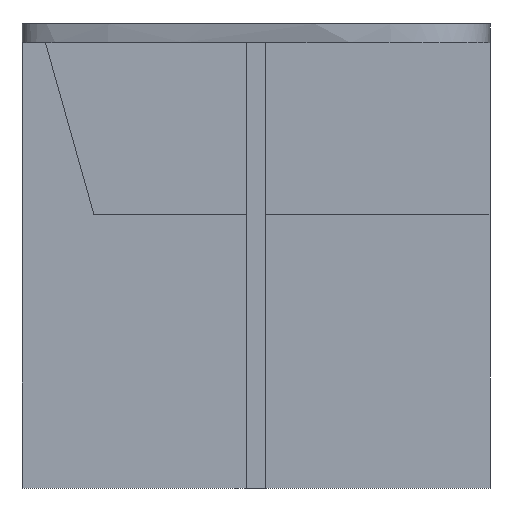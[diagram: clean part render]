
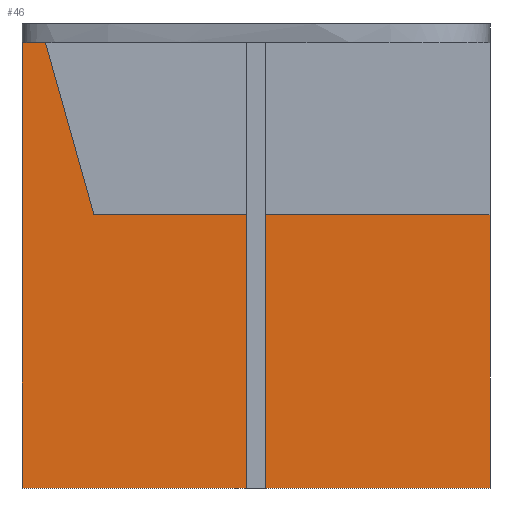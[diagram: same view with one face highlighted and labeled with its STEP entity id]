
A CAD part, left-side view. The second image highlights one B-rep face of the part: STEP entity #46.
In plain terms, the highlighted free-form (B-spline) face has degree [1, 1] with [2, 2] control points.
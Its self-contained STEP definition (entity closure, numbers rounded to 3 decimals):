
#46=ADVANCED_FACE('',(#91),#1428,.T.);
#91=FACE_OUTER_BOUND('',#136,.T.);
#136=EDGE_LOOP('',(#252,#253,#254,#255,#256,#257));
#252=ORIENTED_EDGE('',*,*,#950,.F.);
#253=ORIENTED_EDGE('',*,*,#948,.F.);
#254=ORIENTED_EDGE('',*,*,#952,.F.);
#255=ORIENTED_EDGE('',*,*,#961,.T.);
#256=ORIENTED_EDGE('',*,*,#955,.F.);
#257=ORIENTED_EDGE('',*,*,#959,.F.);
#449=PCURVE('',#1423,#663);
#452=PCURVE('',#1424,#666);
#454=PCURVE('',#1425,#668);
#458=PCURVE('',#1426,#672);
#462=PCURVE('',#1427,#676);
#466=PCURVE('',#1428,#680);
#467=PCURVE('',#1428,#681);
#468=PCURVE('',#1428,#682);
#469=PCURVE('',#1428,#683);
#470=PCURVE('',#1428,#684);
#471=PCURVE('',#1428,#685);
#478=PCURVE('',#1430,#692);
#663=DEFINITIONAL_REPRESENTATION('',(#1131),#2738);
#666=DEFINITIONAL_REPRESENTATION('',(#1136),#2738);
#668=DEFINITIONAL_REPRESENTATION('',(#1140),#2738);
#672=DEFINITIONAL_REPRESENTATION('',(#1147),#2738);
#676=DEFINITIONAL_REPRESENTATION('',(#1155),#2738);
#680=DEFINITIONAL_REPRESENTATION('',(#1160),#2738);
#681=DEFINITIONAL_REPRESENTATION('',(#1161),#2738);
#682=DEFINITIONAL_REPRESENTATION('',(#1162),#2738);
#683=DEFINITIONAL_REPRESENTATION('',(#1164),#2738);
#684=DEFINITIONAL_REPRESENTATION('',(#1165),#2738);
#685=DEFINITIONAL_REPRESENTATION('',(#1166),#2738);
#692=DEFINITIONAL_REPRESENTATION('',(#1174),#2738);
#841=SURFACE_CURVE('',#1130,(#449,#467),.PCURVE_S1.);
#843=SURFACE_CURVE('',#1135,(#452,#466),.PCURVE_S1.);
#845=SURFACE_CURVE('',#1139,(#454,#468),.PCURVE_S1.);
#848=SURFACE_CURVE('',#1146,(#458,#470),.PCURVE_S1.);
#852=SURFACE_CURVE('',#1154,(#462,#471),.PCURVE_S1.);
#854=SURFACE_CURVE('',#1163,(#469,#478),.PCURVE_S1.);
#948=EDGE_CURVE('',#1360,#1359,#841,.T.);
#950=EDGE_CURVE('',#1359,#1367,#843,.T.);
#952=EDGE_CURVE('',#1361,#1360,#845,.T.);
#955=EDGE_CURVE('',#1365,#1366,#848,.T.);
#959=EDGE_CURVE('',#1367,#1365,#852,.T.);
#961=EDGE_CURVE('',#1361,#1366,#854,.T.);
#1130=B_SPLINE_CURVE_WITH_KNOTS('',1,(#1905,#1906),.UNSPECIFIED.,.F.,.F.,
(2,2),(-365.,0.),.UNSPECIFIED.);
#1131=B_SPLINE_CURVE_WITH_KNOTS('',1,(#1907,#1908),.UNSPECIFIED.,.F.,.F.,
(2,2),(-365.,0.),.UNSPECIFIED.);
#1135=B_SPLINE_CURVE_WITH_KNOTS('',1,(#1915,#1916),.UNSPECIFIED.,.F.,.F.,
(2,2),(-622.55,-591.458),.UNSPECIFIED.);
#1136=B_SPLINE_CURVE_WITH_KNOTS('',1,(#1917,#1918),.UNSPECIFIED.,.F.,.F.,
(2,2),(-622.55,-591.458),.UNSPECIFIED.);
#1139=B_SPLINE_CURVE_WITH_KNOTS('',1,(#1923,#1924),.UNSPECIFIED.,.F.,.F.,
(2,2),(0.,622.55),.UNSPECIFIED.);
#1140=B_SPLINE_CURVE_WITH_KNOTS('',1,(#1925,#1926),.UNSPECIFIED.,.F.,.F.,
(2,2),(0.,622.55),.UNSPECIFIED.);
#1146=B_SPLINE_CURVE_WITH_KNOTS('',1,(#1937,#1938),.UNSPECIFIED.,.F.,.F.,
(2,2),(-526.852,0.),.UNSPECIFIED.);
#1147=B_SPLINE_CURVE_WITH_KNOTS('',1,(#1939,#1940),.UNSPECIFIED.,.F.,.F.,
(2,2),(-526.852,0.),.UNSPECIFIED.);
#1154=B_SPLINE_CURVE_WITH_KNOTS('',1,(#1953,#1954),.UNSPECIFIED.,.F.,.F.,
(2,2),(-375.878,-136.911),.UNSPECIFIED.);
#1155=B_SPLINE_CURVE_WITH_KNOTS('',1,(#1955,#1956),.UNSPECIFIED.,.F.,.F.,
(2,2),(-375.878,-136.911),.UNSPECIFIED.);
#1160=B_SPLINE_CURVE_WITH_KNOTS('',1,(#1965,#1966),.UNSPECIFIED.,.F.,.F.,
(2,2),(-622.55,-591.458),.UNSPECIFIED.);
#1161=B_SPLINE_CURVE_WITH_KNOTS('',1,(#1967,#1968),.UNSPECIFIED.,.F.,.F.,
(2,2),(-365.,0.),.UNSPECIFIED.);
#1162=B_SPLINE_CURVE_WITH_KNOTS('',1,(#1969,#1970),.UNSPECIFIED.,.F.,.F.,
(2,2),(0.,622.55),.UNSPECIFIED.);
#1163=B_SPLINE_CURVE_WITH_KNOTS('',1,(#1971,#1972),.UNSPECIFIED.,.F.,.F.,
(2,2),(-365.,-141.091),.UNSPECIFIED.);
#1164=B_SPLINE_CURVE_WITH_KNOTS('',1,(#1973,#1974),.UNSPECIFIED.,.F.,.F.,
(2,2),(-365.,-141.091),.UNSPECIFIED.);
#1165=B_SPLINE_CURVE_WITH_KNOTS('',1,(#1975,#1976),.UNSPECIFIED.,.F.,.F.,
(2,2),(-526.852,0.),.UNSPECIFIED.);
#1166=B_SPLINE_CURVE_WITH_KNOTS('',1,(#1977,#1978),.UNSPECIFIED.,.F.,.F.,
(2,2),(-375.878,-136.911),.UNSPECIFIED.);
#1174=B_SPLINE_CURVE_WITH_KNOTS('',1,(#1993,#1994),.UNSPECIFIED.,.F.,.F.,
(2,2),(-365.,-141.091),.UNSPECIFIED.);
#1359=VERTEX_POINT('',#1881);
#1360=VERTEX_POINT('',#1882);
#1361=VERTEX_POINT('',#1883);
#1365=VERTEX_POINT('',#1887);
#1366=VERTEX_POINT('',#1888);
#1367=VERTEX_POINT('',#1889);
#1423=B_SPLINE_SURFACE_WITH_KNOTS('',1,1,((#1849,#1850),(#1851,#1852)),
 .UNSPECIFIED.,.F.,.F.,.F.,(2,2),(2,2),(622.55,647.55),
(0.,365.),.UNSPECIFIED.);
#1424=B_SPLINE_SURFACE_WITH_KNOTS('',1,1,((#1853,#1854),(#1855,#1856)),
 .UNSPECIFIED.,.F.,.F.,.F.,(2,2),(2,2),(0.,25.),(0.,625.),
 .UNSPECIFIED.);
#1425=B_SPLINE_SURFACE_WITH_KNOTS('',1,1,((#1857,#1858),(#1859,#1860)),
 .UNSPECIFIED.,.F.,.F.,.F.,(2,2),(2,2),(0.,625.),(0.,25.),
 .UNSPECIFIED.);
#1426=B_SPLINE_SURFACE_WITH_KNOTS('',1,1,((#1861,#1862),(#1863,#1864)),
 .UNSPECIFIED.,.F.,.F.,.F.,(2,2),(2,2),(0.,590.),(0.,616.286),
 .UNSPECIFIED.);
#1427=B_SPLINE_SURFACE_WITH_KNOTS('',1,1,((#1865,#1866),(#1867,#1868)),
 .UNSPECIFIED.,.F.,.F.,.F.,(2,2),(2,2),(0.,524.663),(0.,1439.185),
 .UNSPECIFIED.);
#1428=B_SPLINE_SURFACE_WITH_KNOTS('',1,1,((#1869,#1870),(#1871,#1872)),
 .UNSPECIFIED.,.F.,.F.,.F.,(2,2),(2,2),(0.,622.55),(0.,365.),
 .UNSPECIFIED.);
#1430=B_SPLINE_SURFACE_WITH_KNOTS('',1,1,((#1877,#1878),(#1879,#1880)),
 .UNSPECIFIED.,.F.,.F.,.F.,(2,2),(2,2),(1270.101,1295.101),
(0.,365.),.UNSPECIFIED.);
#1849=CARTESIAN_POINT('',(36737.704,-14894.884,575.652));
#1850=CARTESIAN_POINT('',(36737.704,-14894.884,-19.344));
#1851=CARTESIAN_POINT('',(36762.704,-14894.884,575.652));
#1852=CARTESIAN_POINT('',(36762.704,-14894.884,-19.344));
#1853=CARTESIAN_POINT('',(36737.704,-15519.884,575.652));
#1854=CARTESIAN_POINT('',(36737.704,-14894.884,575.652));
#1855=CARTESIAN_POINT('',(36762.704,-15519.884,575.652));
#1856=CARTESIAN_POINT('',(36762.704,-14894.884,575.652));
#1857=CARTESIAN_POINT('',(36737.704,-15519.884,-19.344));
#1858=CARTESIAN_POINT('',(36762.704,-15519.884,-19.344));
#1859=CARTESIAN_POINT('',(36737.704,-14894.884,-19.344));
#1860=CARTESIAN_POINT('',(36762.704,-14894.884,-19.344));
#1861=CARTESIAN_POINT('',(36455.204,-15529.918,345.656));
#1862=CARTESIAN_POINT('',(36455.204,-14913.632,345.656));
#1863=CARTESIAN_POINT('',(37045.204,-15529.918,345.656));
#1864=CARTESIAN_POINT('',(37045.204,-14913.632,345.656));
#1865=CARTESIAN_POINT('',(37519.916,-15028.119,213.885));
#1866=CARTESIAN_POINT('',(36080.731,-15028.119,213.885));
#1867=CARTESIAN_POINT('',(37519.916,-14885.714,718.853));
#1868=CARTESIAN_POINT('',(36080.731,-14885.714,718.853));
#1869=CARTESIAN_POINT('',(36737.704,-15519.884,575.652));
#1870=CARTESIAN_POINT('',(36737.704,-15519.884,-19.344));
#1871=CARTESIAN_POINT('',(36737.704,-14894.884,575.652));
#1872=CARTESIAN_POINT('',(36737.704,-14894.884,-19.344));
#1877=CARTESIAN_POINT('',(36762.704,-15519.884,575.652));
#1878=CARTESIAN_POINT('',(36762.704,-15519.884,-19.344));
#1879=CARTESIAN_POINT('',(36737.704,-15519.884,575.652));
#1880=CARTESIAN_POINT('',(36737.704,-15519.884,-19.344));
#1881=CARTESIAN_POINT('',(36737.704,-14894.884,575.652));
#1882=CARTESIAN_POINT('',(36737.704,-14894.884,-19.344));
#1883=CARTESIAN_POINT('',(36737.704,-15519.884,-19.344));
#1887=CARTESIAN_POINT('',(36737.704,-14990.959,345.656));
#1888=CARTESIAN_POINT('',(36737.704,-15519.884,345.656));
#1889=CARTESIAN_POINT('',(36737.704,-14926.098,575.652));
#1905=CARTESIAN_POINT('',(36737.704,-14894.884,-19.344));
#1906=CARTESIAN_POINT('',(36737.704,-14894.884,575.652));
#1907=CARTESIAN_POINT('',(622.55,365.));
#1908=CARTESIAN_POINT('',(622.55,0.));
#1915=CARTESIAN_POINT('',(36737.704,-14894.884,575.652));
#1916=CARTESIAN_POINT('',(36737.704,-14926.098,575.652));
#1917=CARTESIAN_POINT('',(0.,625.));
#1918=CARTESIAN_POINT('',(0.,593.786));
#1923=CARTESIAN_POINT('',(36737.704,-15519.884,-19.344));
#1924=CARTESIAN_POINT('',(36737.704,-14894.884,-19.344));
#1925=CARTESIAN_POINT('',(0.,0.));
#1926=CARTESIAN_POINT('',(625.,0.));
#1937=CARTESIAN_POINT('',(36737.704,-14990.959,345.656));
#1938=CARTESIAN_POINT('',(36737.704,-15519.884,345.656));
#1939=CARTESIAN_POINT('',(282.5,538.959));
#1940=CARTESIAN_POINT('',(282.5,10.034));
#1953=CARTESIAN_POINT('',(36737.704,-14926.098,575.652));
#1954=CARTESIAN_POINT('',(36737.704,-14990.959,345.656));
#1955=CARTESIAN_POINT('',(375.878,782.212));
#1956=CARTESIAN_POINT('',(136.911,782.212));
#1965=CARTESIAN_POINT('',(622.55,0.));
#1966=CARTESIAN_POINT('',(591.458,0.));
#1967=CARTESIAN_POINT('',(622.55,365.));
#1968=CARTESIAN_POINT('',(622.55,0.));
#1969=CARTESIAN_POINT('',(0.,365.));
#1970=CARTESIAN_POINT('',(622.55,365.));
#1971=CARTESIAN_POINT('',(36737.704,-15519.884,-19.344));
#1972=CARTESIAN_POINT('',(36737.704,-15519.884,345.656));
#1973=CARTESIAN_POINT('',(0.,365.));
#1974=CARTESIAN_POINT('',(0.,141.091));
#1975=CARTESIAN_POINT('',(526.852,141.091));
#1976=CARTESIAN_POINT('',(0.,141.091));
#1977=CARTESIAN_POINT('',(591.458,0.));
#1978=CARTESIAN_POINT('',(526.852,141.091));
#1993=CARTESIAN_POINT('',(1295.101,365.));
#1994=CARTESIAN_POINT('',(1295.101,141.091));
#2738=(
GEOMETRIC_REPRESENTATION_CONTEXT(2)
PARAMETRIC_REPRESENTATION_CONTEXT()
REPRESENTATION_CONTEXT('pspace','')
);
